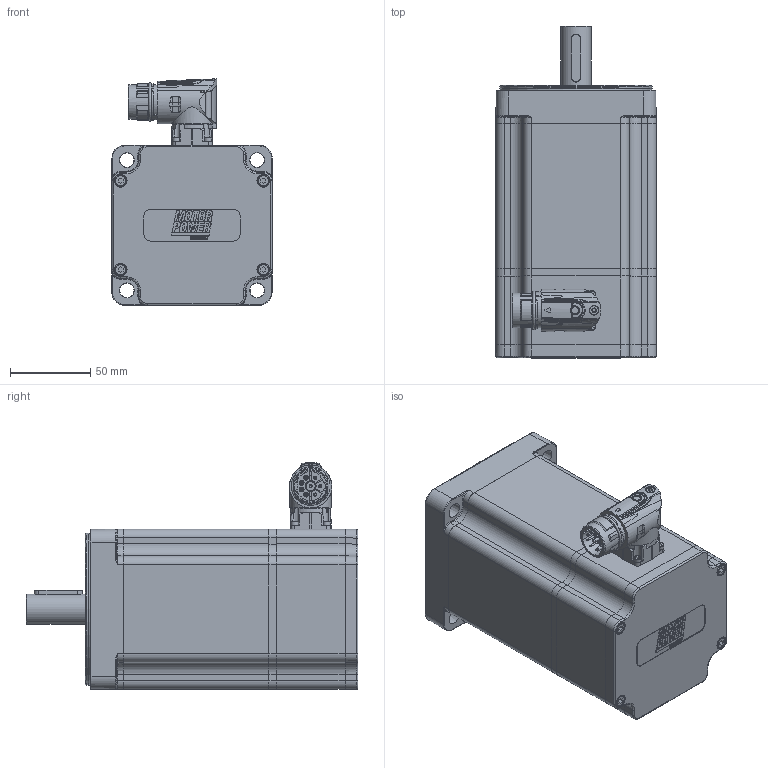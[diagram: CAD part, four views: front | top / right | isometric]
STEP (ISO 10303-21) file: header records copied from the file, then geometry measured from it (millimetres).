
FILE_DESCRIPTION(/* description */ ('Unknown'),/* implementation_level */ '2;1');
FILE_NAME(/* name */ 'TC4-100.4A.XX.X.2.M1.0.1.C21.31.80 Q0BQ19',/* time_stamp */ '2026-03-04T16:51:59+01:00',/* author */ ('Unknown'),/* organization */ ('Unknown'),/* preprocessor_version */ 'ST-DEVELOPER v19.4',/* originating_system */ 'Solid Edge',/* authorisation */ 'Unknown');
FILE_SCHEMA (('AUTOMOTIVE_DESIGN {1 0 10303 214 3 1 1}'));
Products named in the file (14): Q0BQ19 4A M1 VUOTO; 005911000185; 005113000500; 005119000312; 003103040221; 003155002195; 003151003168; 003107003287; 005911000824; 003003200460; 007117000456; 003251040721; 005911000208; 005911000180
Assembly tree (25 placements, depth 2):
  Q0BQ19 4A M1 VUOTO
    005911000185  x4
    005113000500
    005119000312
    003103040221
    003155002195
    003151003168
    003107003287
    005911000824  x4
    003003200460
    007117000456
    003251040721
    005911000208  x4
    005911000180  x4
Bounding box: 100 x 207 x 141.5 mm (x, y, z)
Volume: 630166.9 mm3; surface area: 241783.7 mm2
Topology: 27 solids, 27 shells, 1808 faces, 4498 edges, 2858 vertices
Faces by surface type: plane 838, cylinder 410, bspline 228, cone 183, torus 99, sphere 50
Full cylindrical faces by diameter (mm): 1 x4, 1.4 x4, 2 x4, 2.013 x4, 2.459 x2, 2.5 x4, 2.8 x4, 3 x8, 3.2 x1, 3.242 x32, 3.3 x1, 3.36 x4, 4 x13, 4.5 x21, 4.7 x4, 4.917 x1, 5.5 x1, 5.8 x1, 5.9 x1, 6 x1, 6.4 x1, 6.8 x1, 7 x8, 8 x4, 8.004 x4, 10 x1, 16.99 x1, 17 x1, 17.4 x1, 19 x1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
Entity records: 63129 total; most frequent: CARTESIAN_POINT 16624, ORIENTED_EDGE 7392, DIRECTION 6914, EDGE_CURVE 3696, AXIS2_PLACEMENT_3D 2589, VERTEX_POINT 2534, FACE_BOUND 2138, EDGE_LOOP 2117
